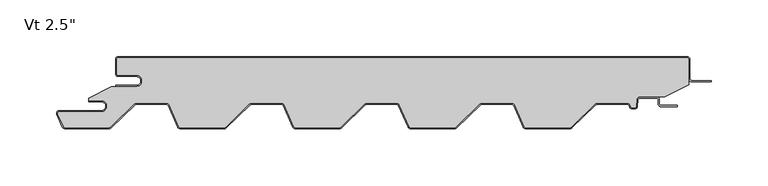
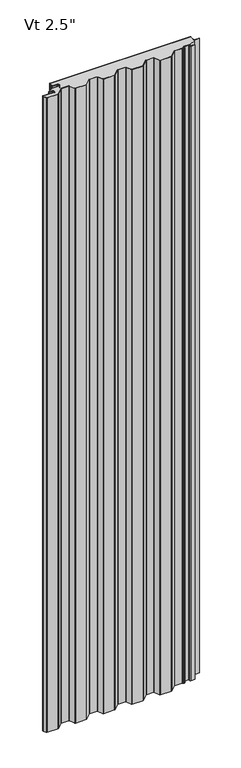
"""IFC4 building model written with IfcOpenShell, lengths in millimetres: plate geometry."""

from ifc_helpers import new_model, si_unit, point, frame_2d, origin, origin_with_axes, place, context, project, spatial, polyline, circle_curve, trimmed, segment, composite_curve, outline, extrude, source, transform, mapped, element, save


def plate_8d839006(model_context):
    return source(origin(), model_context, "Body", "SweptSolid", [
        extrude(outline(composite_curve([segment(trimmed(circle_curve(frame_2d((-234.94375, -21.4324412)), 4.96875), [point((-234.94375, -26.4011912))], [point((-234.94375, -16.4636912))], True, "CARTESIAN"), True, "CONTINUOUS"), segment(polyline([(-234.94375, -16.4636912), (-250.81875, -16.4636912)]), True, "CONTINUOUS"), segment(trimmed(circle_curve(frame_2d((-250.81875, -15.0824412)), 1.38125), [point((-250.81875, -16.4636912))], [point((-252.2, -15.0824412))], False, "CARTESIAN"), True, "CONTINUOUS"), segment(polyline([(-252.2, -15.0824412), (-252.2, -2.3824412)]), True, "CONTINUOUS"), segment(trimmed(circle_curve(frame_2d((-250.81875, -2.3824412)), 1.38125), [point((-252.2, -2.3824412))], [point((-250.81875, -1.0011912))], False, "CARTESIAN"), True, "CONTINUOUS"), segment(polyline([(-250.81875, -1.0011912), (250.83125, -1.0011912)]), True, "CONTINUOUS"), segment(trimmed(circle_curve(frame_2d((250.83125, -2.3824412)), 1.38125), [point((250.83125, -1.0011912))], [point((252.2125, -2.3824412))], False, "CARTESIAN"), True, "CONTINUOUS"), segment(polyline([(252.2125, -2.3824412), (252.2125, -24.8719682), (231.3955434, -35.5136912), (208.9683457, -35.5136912)]), True, "CONTINUOUS"), segment(trimmed(circle_curve(frame_2d((208.9683457, -38.1011912)), 2.5875), [point((208.9683457, -35.5136912))], [point((206.3843918, -37.9657719))], True, "CARTESIAN"), True, "CONTINUOUS"), segment(polyline([(206.3843918, -37.9657719), (206.0823155, -43.7297302)]), True, "CONTINUOUS"), segment(trimmed(circle_curve(frame_2d((204.7029585, -43.6574412)), 1.38125), [point((206.0823155, -43.7297302))], [point((204.7029585, -45.0386912))], False, "CARTESIAN"), True, "CONTINUOUS"), segment(polyline([(204.7029585, -45.0386912), (202.3754519, -45.0386912)]), True, "CONTINUOUS"), segment(trimmed(circle_curve(frame_2d((202.3754519, -43.6574412)), 1.38125), [point((202.3754519, -45.0386912))], [point((201.1124516, -44.2166208))], False, "CARTESIAN"), True, "CONTINUOUS"), segment(polyline([(201.1124516, -44.2166208), (200.3640306, -42.5261871)]), True, "CONTINUOUS"), segment(trimmed(circle_curve(frame_2d((197.9980481, -43.5737)), 2.5875), [point((200.3640306, -42.5261871))], [point((197.9980481, -40.9862))], True, "CARTESIAN"), True, "CONTINUOUS"), segment(polyline([(197.9980481, -40.9862), (171.4742003, -40.9862)]), True, "CONTINUOUS"), segment(trimmed(circle_curve(frame_2d((171.4742003, -43.5737)), 2.5875), [point((171.4742003, -40.9862))], [point((169.6745496, -41.7145567))], True, "CARTESIAN"), True, "CONTINUOUS"), segment(polyline([(169.6745496, -41.7145567), (148.6036462, -62.1111912)]), True, "CONTINUOUS"), segment(trimmed(circle_curve(frame_2d((147.6429631, -61.11875)), 1.38125), [point((148.6036462, -62.1111912))], [point((147.6429631, -62.5))], False, "CARTESIAN"), True, "CONTINUOUS"), segment(polyline([(147.6429631, -62.5), (108.5062557, -62.5)]), True, "CONTINUOUS"), segment(trimmed(circle_curve(frame_2d((108.5062557, -61.11875)), 1.38125), [point((108.5062557, -62.5))], [point((107.2432554, -61.6779296))], False, "CARTESIAN"), True, "CONTINUOUS"), segment(polyline([(107.2432554, -61.6779296), (98.7640306, -42.5261871)]), True, "CONTINUOUS"), segment(trimmed(circle_curve(frame_2d((96.3980481, -43.5737)), 2.5875), [point((98.7640306, -42.5261871))], [point((96.3980481, -40.9862))], True, "CARTESIAN"), True, "CONTINUOUS"), segment(polyline([(96.3980481, -40.9862), (69.8742003, -40.9862)]), True, "CONTINUOUS"), segment(trimmed(circle_curve(frame_2d((69.8742003, -43.5737)), 2.5875), [point((69.8742003, -40.9862))], [point((68.0745496, -41.7145567))], True, "CARTESIAN"), True, "CONTINUOUS"), segment(polyline([(68.0745496, -41.7145567), (47.0036462, -62.1111912)]), True, "CONTINUOUS"), segment(trimmed(circle_curve(frame_2d((46.0429631, -61.11875)), 1.38125), [point((47.0036462, -62.1111912))], [point((46.0429631, -62.5))], False, "CARTESIAN"), True, "CONTINUOUS"), segment(polyline([(46.0429631, -62.5), (6.9062557, -62.5)]), True, "CONTINUOUS"), segment(trimmed(circle_curve(frame_2d((6.9062557, -61.11875)), 1.38125), [point((6.9062557, -62.5))], [point((5.6432554, -61.6779296))], False, "CARTESIAN"), True, "CONTINUOUS"), segment(polyline([(5.6432554, -61.6779296), (-2.8359694, -42.5261871)]), True, "CONTINUOUS"), segment(trimmed(circle_curve(frame_2d((-5.2019519, -43.5737)), 2.5875), [point((-2.8359694, -42.5261871))], [point((-5.2019519, -40.9862))], True, "CARTESIAN"), True, "CONTINUOUS"), segment(polyline([(-5.2019519, -40.9862), (-31.7257997, -40.9862)]), True, "CONTINUOUS"), segment(trimmed(circle_curve(frame_2d((-31.7257997, -43.5737)), 2.5875), [point((-31.7257997, -40.9862))], [point((-33.5254504, -41.7145567))], True, "CARTESIAN"), True, "CONTINUOUS"), segment(polyline([(-33.5254504, -41.7145567), (-54.5963538, -62.1111912)]), True, "CONTINUOUS"), segment(trimmed(circle_curve(frame_2d((-55.5570369, -61.11875)), 1.38125), [point((-54.5963538, -62.1111912))], [point((-55.5570369, -62.5))], False, "CARTESIAN"), True, "CONTINUOUS"), segment(polyline([(-55.5570369, -62.5), (-94.6937443, -62.5)]), True, "CONTINUOUS"), segment(trimmed(circle_curve(frame_2d((-94.6937443, -61.11875)), 1.38125), [point((-94.6937443, -62.5))], [point((-95.9567446, -61.6779296))], False, "CARTESIAN"), True, "CONTINUOUS"), segment(polyline([(-95.9567446, -61.6779296), (-104.4359694, -42.5261871)]), True, "CONTINUOUS"), segment(trimmed(circle_curve(frame_2d((-106.8019519, -43.5737)), 2.5875), [point((-104.4359694, -42.5261871))], [point((-106.8019519, -40.9862))], True, "CARTESIAN"), True, "CONTINUOUS"), segment(polyline([(-106.8019519, -40.9862), (-133.3257997, -40.9862)]), True, "CONTINUOUS"), segment(trimmed(circle_curve(frame_2d((-133.3257997, -43.5737)), 2.5875), [point((-133.3257997, -40.9862))], [point((-135.1254504, -41.7145567))], True, "CARTESIAN"), True, "CONTINUOUS"), segment(polyline([(-135.1254504, -41.7145567), (-156.1963538, -62.1111912)]), True, "CONTINUOUS"), segment(trimmed(circle_curve(frame_2d((-157.1570369, -61.11875)), 1.38125), [point((-156.1963538, -62.1111912))], [point((-157.1570369, -62.5))], False, "CARTESIAN"), True, "CONTINUOUS"), segment(polyline([(-157.1570369, -62.5), (-196.2937443, -62.5)]), True, "CONTINUOUS"), segment(trimmed(circle_curve(frame_2d((-196.2937443, -61.11875)), 1.38125), [point((-196.2937443, -62.5))], [point((-197.5567446, -61.6779296))], False, "CARTESIAN"), True, "CONTINUOUS"), segment(polyline([(-197.5567446, -61.6779296), (-206.0359694, -42.5261871)]), True, "CONTINUOUS"), segment(trimmed(circle_curve(frame_2d((-208.4019519, -43.5737)), 2.5875), [point((-206.0359694, -42.5261871))], [point((-208.4019519, -40.9862))], True, "CARTESIAN"), True, "CONTINUOUS"), segment(polyline([(-208.4019519, -40.9862), (-234.9257997, -40.9862)]), True, "CONTINUOUS"), segment(trimmed(circle_curve(frame_2d((-234.9257997, -43.5737)), 2.5875), [point((-234.9257997, -40.9862))], [point((-236.7254504, -41.7145567))], True, "CARTESIAN"), True, "CONTINUOUS"), segment(polyline([(-236.7254504, -41.7145567), (-257.5876931, -61.9092077)]), True, "CONTINUOUS"), segment(trimmed(circle_curve(frame_2d((-259.0474446, -60.4012)), 2.0988), [point((-257.5876931, -61.9092077))], [point((-259.0474446, -62.5))], False, "CARTESIAN"), True, "CONTINUOUS"), segment(polyline([(-259.0474446, -62.5), (-297.8937443, -62.5)]), True, "CONTINUOUS"), segment(trimmed(circle_curve(frame_2d((-297.8937443, -61.11875)), 1.38125), [point((-297.8937443, -62.5))], [point((-299.1567446, -61.6779296))], False, "CARTESIAN"), True, "CONTINUOUS"), segment(polyline([(-299.1567446, -61.6779296), (-304.0761552, -50.5666208)]), True, "CONTINUOUS"), segment(trimmed(circle_curve(frame_2d((-302.8131549, -50.0074412)), 1.38125), [point((-304.0761552, -50.5666208))], [point((-302.8131549, -48.6261912))], False, "CARTESIAN"), True, "CONTINUOUS"), segment(polyline([(-302.8131549, -48.6261912), (-265.9, -48.6261912)]), True, "CONTINUOUS"), segment(trimmed(circle_curve(frame_2d((-265.9, -43.6574412)), 4.96875), [point((-265.9, -48.6261912))], [point((-265.9, -38.6886912))], True, "CARTESIAN"), True, "CONTINUOUS"), segment(polyline([(-265.9, -38.6886912), (-277.0125, -38.6886912), (-277.0125, -36.533822), (-257.1914112, -26.4011912), (-234.94375, -26.4011912)]), True, "CONTINUOUS")], self_intersect=False)), origin_with_axes(), (0.0, 0.0, 1.0), 2400.0),
        extrude(outline(composite_curve([segment(polyline([(-253.2, -25.4), (-234.94375, -25.4)]), True, "CONTINUOUS"), segment(trimmed(circle_curve(frame_2d((-234.94375, -21.43125)), 3.96875), [point((-234.94375, -25.4))], [point((-234.94375, -17.4625))], True, "CARTESIAN"), True, "CONTINUOUS"), segment(polyline([(-234.94375, -17.4625), (-250.81875, -17.4625)]), True, "CONTINUOUS"), segment(trimmed(circle_curve(frame_2d((-250.81875, -15.08125)), 2.38125), [point((-250.81875, -17.4625))], [point((-253.2, -15.08125))], False, "CARTESIAN"), True, "CONTINUOUS"), segment(polyline([(-253.2, -15.08125), (-253.2, -2.38125)]), True, "CONTINUOUS"), segment(trimmed(circle_curve(frame_2d((-250.81875, -2.38125)), 2.38125), [point((-253.2, -2.38125))], [point((-250.81875, 0.0))], False, "CARTESIAN"), True, "CONTINUOUS"), segment(polyline([(-250.81875, 0.0), (250.83125, 0.0)]), True, "CONTINUOUS"), segment(trimmed(circle_curve(frame_2d((250.83125, -2.38125)), 2.38125), [point((250.83125, 0.0))], [point((253.2125, -2.38125))], False, "CARTESIAN"), True, "CONTINUOUS"), segment(polyline([(253.2125, -2.38125), (253.2125, -19.446875)]), True, "CONTINUOUS"), segment(trimmed(circle_curve(frame_2d((254.8, -19.446875)), 1.5875), [point((253.2125, -19.446875))], [point((254.8, -21.034375))], True, "CARTESIAN"), True, "CONTINUOUS"), segment(polyline([(254.8, -21.034375), (272.2625, -21.034375), (272.2625, -22.034375), (254.8, -22.034375)]), True, "CONTINUOUS"), segment(trimmed(circle_curve(frame_2d((254.8, -19.446875)), 2.5875), [point((254.8, -22.034375))], [point((252.2125, -19.446875))], False, "CARTESIAN"), True, "CONTINUOUS"), segment(polyline([(252.2125, -19.446875), (252.2125, -2.38125)]), True, "CONTINUOUS"), segment(trimmed(circle_curve(frame_2d((250.83125, -2.38125)), 1.38125), [point((252.2125, -2.38125))], [point((250.83125, -1.0))], True, "CARTESIAN"), True, "CONTINUOUS"), segment(polyline([(250.83125, -1.0), (-250.81875, -1.0)]), True, "CONTINUOUS"), segment(trimmed(circle_curve(frame_2d((-250.81875, -2.38125)), 1.38125), [point((-250.81875, -1.0))], [point((-252.2, -2.38125))], True, "CARTESIAN"), True, "CONTINUOUS"), segment(polyline([(-252.2, -2.38125), (-252.2, -15.08125)]), True, "CONTINUOUS"), segment(trimmed(circle_curve(frame_2d((-250.81875, -15.08125)), 1.38125), [point((-252.2, -15.08125))], [point((-250.81875, -16.4625))], True, "CARTESIAN"), True, "CONTINUOUS"), segment(polyline([(-250.81875, -16.4625), (-234.94375, -16.4625)]), True, "CONTINUOUS"), segment(trimmed(circle_curve(frame_2d((-234.94375, -21.43125)), 4.96875), [point((-234.94375, -16.4625))], [point((-234.94375, -26.4))], False, "CARTESIAN"), True, "CONTINUOUS"), segment(polyline([(-234.94375, -26.4), (-253.2, -26.4), (-253.2, -25.4)]), True, "CONTINUOUS")], self_intersect=False)), origin_with_axes(), (0.0, 0.0, 1.0), 2400.0),
        extrude(outline(composite_curve([segment(trimmed(circle_curve(frame_2d((-265.9, -43.6574412)), 3.96875), [point((-265.9, -47.6261912))], [point((-265.9, -39.6886912))], True, "CARTESIAN"), True, "CONTINUOUS"), segment(polyline([(-265.9, -39.6886912), (-277.0125, -39.6886912), (-277.0125, -38.6886912), (-265.9, -38.6886912)]), True, "CONTINUOUS"), segment(trimmed(circle_curve(frame_2d((-265.9, -43.6574412)), 4.96875), [point((-265.9, -38.6886912))], [point((-265.9, -48.6261912))], False, "CARTESIAN"), True, "CONTINUOUS"), segment(polyline([(-265.9, -48.6261912), (-302.8131549, -48.6261912)]), True, "CONTINUOUS"), segment(trimmed(circle_curve(frame_2d((-302.8131549, -50.0074412)), 1.38125), [point((-302.8131549, -48.6261912))], [point((-304.0761552, -50.5666208))], True, "CARTESIAN"), True, "CONTINUOUS"), segment(polyline([(-304.0761552, -50.5666208), (-299.1567446, -61.6779296)]), True, "CONTINUOUS"), segment(trimmed(circle_curve(frame_2d((-297.8937443, -61.11875)), 1.38125), [point((-299.1567446, -61.6779296))], [point((-297.8937443, -62.5))], True, "CARTESIAN"), True, "CONTINUOUS"), segment(polyline([(-297.8937443, -62.5), (-259.0474446, -62.5)]), True, "CONTINUOUS"), segment(trimmed(circle_curve(frame_2d((-259.0474446, -60.4012)), 2.0988), [point((-259.0474446, -62.5))], [point((-257.5876931, -61.9092077))], True, "CARTESIAN"), True, "CONTINUOUS"), segment(polyline([(-257.5876931, -61.9092077), (-236.7254504, -41.7145567)]), True, "CONTINUOUS"), segment(trimmed(circle_curve(frame_2d((-234.9257997, -43.5737)), 2.5875), [point((-236.7254504, -41.7145567))], [point((-234.9257997, -40.9862))], False, "CARTESIAN"), True, "CONTINUOUS"), segment(polyline([(-234.9257997, -40.9862), (-208.4019519, -40.9862)]), True, "CONTINUOUS"), segment(trimmed(circle_curve(frame_2d((-208.4019519, -43.5737)), 2.5875), [point((-208.4019519, -40.9862))], [point((-206.0359694, -42.5261871))], False, "CARTESIAN"), True, "CONTINUOUS"), segment(polyline([(-206.0359694, -42.5261871), (-197.5567446, -61.6779296)]), True, "CONTINUOUS"), segment(trimmed(circle_curve(frame_2d((-196.2937443, -61.11875)), 1.38125), [point((-197.5567446, -61.6779296))], [point((-196.2937443, -62.5))], True, "CARTESIAN"), True, "CONTINUOUS"), segment(polyline([(-196.2937443, -62.5), (-157.1570369, -62.5)]), True, "CONTINUOUS"), segment(trimmed(circle_curve(frame_2d((-157.1570369, -61.11875)), 1.38125), [point((-157.1570369, -62.5))], [point((-156.1963538, -62.1111912))], True, "CARTESIAN"), True, "CONTINUOUS"), segment(polyline([(-156.1963538, -62.1111912), (-135.1254504, -41.7145567)]), True, "CONTINUOUS"), segment(trimmed(circle_curve(frame_2d((-133.3257997, -43.5737)), 2.5875), [point((-135.1254504, -41.7145567))], [point((-133.3257997, -40.9862))], False, "CARTESIAN"), True, "CONTINUOUS"), segment(polyline([(-133.3257997, -40.9862), (-106.8019519, -40.9862)]), True, "CONTINUOUS"), segment(trimmed(circle_curve(frame_2d((-106.8019519, -43.5737)), 2.5875), [point((-106.8019519, -40.9862))], [point((-104.4359694, -42.5261871))], False, "CARTESIAN"), True, "CONTINUOUS"), segment(polyline([(-104.4359694, -42.5261871), (-95.9567446, -61.6779296)]), True, "CONTINUOUS"), segment(trimmed(circle_curve(frame_2d((-94.6937443, -61.11875)), 1.38125), [point((-95.9567446, -61.6779296))], [point((-94.6937443, -62.5))], True, "CARTESIAN"), True, "CONTINUOUS"), segment(polyline([(-94.6937443, -62.5), (-55.5570369, -62.5)]), True, "CONTINUOUS"), segment(trimmed(circle_curve(frame_2d((-55.5570369, -61.11875)), 1.38125), [point((-55.5570369, -62.5))], [point((-54.5963538, -62.1111912))], True, "CARTESIAN"), True, "CONTINUOUS"), segment(polyline([(-54.5963538, -62.1111912), (-33.5254504, -41.7145567)]), True, "CONTINUOUS"), segment(trimmed(circle_curve(frame_2d((-31.7257997, -43.5737)), 2.5875), [point((-33.5254504, -41.7145567))], [point((-31.7257997, -40.9862))], False, "CARTESIAN"), True, "CONTINUOUS"), segment(polyline([(-31.7257997, -40.9862), (-5.2019519, -40.9862)]), True, "CONTINUOUS"), segment(trimmed(circle_curve(frame_2d((-5.2019519, -43.5737)), 2.5875), [point((-5.2019519, -40.9862))], [point((-2.8359694, -42.5261871))], False, "CARTESIAN"), True, "CONTINUOUS"), segment(polyline([(-2.8359694, -42.5261871), (5.6432554, -61.6779296)]), True, "CONTINUOUS"), segment(trimmed(circle_curve(frame_2d((6.9062557, -61.11875)), 1.38125), [point((5.6432554, -61.6779296))], [point((6.9062557, -62.5))], True, "CARTESIAN"), True, "CONTINUOUS"), segment(polyline([(6.9062557, -62.5), (46.0429631, -62.5)]), True, "CONTINUOUS"), segment(trimmed(circle_curve(frame_2d((46.0429631, -61.11875)), 1.38125), [point((46.0429631, -62.5))], [point((47.0036462, -62.1111912))], True, "CARTESIAN"), True, "CONTINUOUS"), segment(polyline([(47.0036462, -62.1111912), (68.0745496, -41.7145567)]), True, "CONTINUOUS"), segment(trimmed(circle_curve(frame_2d((69.8742003, -43.5737)), 2.5875), [point((68.0745496, -41.7145567))], [point((69.8742003, -40.9862))], False, "CARTESIAN"), True, "CONTINUOUS"), segment(polyline([(69.8742003, -40.9862), (96.3980481, -40.9862)]), True, "CONTINUOUS"), segment(trimmed(circle_curve(frame_2d((96.3980481, -43.5737)), 2.5875), [point((96.3980481, -40.9862))], [point((98.7640306, -42.5261871))], False, "CARTESIAN"), True, "CONTINUOUS"), segment(polyline([(98.7640306, -42.5261871), (107.2432554, -61.6779296)]), True, "CONTINUOUS"), segment(trimmed(circle_curve(frame_2d((108.5062557, -61.11875)), 1.38125), [point((107.2432554, -61.6779296))], [point((108.5062557, -62.5))], True, "CARTESIAN"), True, "CONTINUOUS"), segment(polyline([(108.5062557, -62.5), (147.6429631, -62.5)]), True, "CONTINUOUS"), segment(trimmed(circle_curve(frame_2d((147.6429631, -61.11875)), 1.38125), [point((147.6429631, -62.5))], [point((148.6036462, -62.1111912))], True, "CARTESIAN"), True, "CONTINUOUS"), segment(polyline([(148.6036462, -62.1111912), (169.6745496, -41.7145567)]), True, "CONTINUOUS"), segment(trimmed(circle_curve(frame_2d((171.4742003, -43.5737)), 2.5875), [point((169.6745496, -41.7145567))], [point((171.4742003, -40.9862))], False, "CARTESIAN"), True, "CONTINUOUS"), segment(polyline([(171.4742003, -40.9862), (197.9980481, -40.9862)]), True, "CONTINUOUS"), segment(trimmed(circle_curve(frame_2d((197.9980481, -43.5737)), 2.5875), [point((197.9980481, -40.9862))], [point((200.3640306, -42.5261871))], False, "CARTESIAN"), True, "CONTINUOUS"), segment(polyline([(200.3640306, -42.5261871), (201.1124516, -44.2166208)]), True, "CONTINUOUS"), segment(trimmed(circle_curve(frame_2d((202.3754519, -43.6574412)), 1.38125), [point((201.1124516, -44.2166208))], [point((202.3754519, -45.0386912))], True, "CARTESIAN"), True, "CONTINUOUS"), segment(polyline([(202.3754519, -45.0386912), (204.7029585, -45.0386912)]), True, "CONTINUOUS"), segment(trimmed(circle_curve(frame_2d((204.7029585, -43.6574412)), 1.38125), [point((204.7029585, -45.0386912))], [point((206.0823155, -43.7297302))], True, "CARTESIAN"), True, "CONTINUOUS"), segment(polyline([(206.0823155, -43.7297302), (206.3843918, -37.9657719)]), True, "CONTINUOUS"), segment(trimmed(circle_curve(frame_2d((208.9683457, -38.1011912)), 2.5875), [point((206.3843918, -37.9657719))], [point((208.9683457, -35.5136912))], False, "CARTESIAN"), True, "CONTINUOUS"), segment(polyline([(208.9683457, -35.5136912), (223.84375, -35.5136912)]), True, "CONTINUOUS"), segment(trimmed(circle_curve(frame_2d((223.84375, -38.1011912)), 2.5875), [point((223.84375, -35.5136912))], [point((226.43125, -38.1011912))], False, "CARTESIAN"), True, "CONTINUOUS"), segment(polyline([(226.43125, -38.1011912), (226.43125, -41.6730662)]), True, "CONTINUOUS"), segment(trimmed(circle_curve(frame_2d((227.8125, -41.6730662)), 1.38125), [point((226.43125, -41.6730662))], [point((227.8125, -43.0543162))], True, "CARTESIAN"), True, "CONTINUOUS"), segment(polyline([(227.8125, -43.0543162), (242.1, -43.0543162), (242.1, -44.0543162), (227.8125, -44.0543162)]), True, "CONTINUOUS"), segment(trimmed(circle_curve(frame_2d((227.8125, -41.6730662)), 2.38125), [point((227.8125, -44.0543162))], [point((225.43125, -41.6730662))], False, "CARTESIAN"), True, "CONTINUOUS"), segment(polyline([(225.43125, -41.6730662), (225.43125, -38.1011912)]), True, "CONTINUOUS"), segment(trimmed(circle_curve(frame_2d((223.84375, -38.1011912)), 1.5875), [point((225.43125, -38.1011912))], [point((223.84375, -36.5136912))], True, "CARTESIAN"), True, "CONTINUOUS"), segment(polyline([(223.84375, -36.5136912), (208.9683457, -36.5136912)]), True, "CONTINUOUS"), segment(trimmed(circle_curve(frame_2d((208.9683457, -38.1011912)), 1.5875), [point((208.9683457, -36.5136912))], [point((207.3830213, -38.0181078))], True, "CARTESIAN"), True, "CONTINUOUS"), segment(polyline([(207.3830213, -38.0181078), (207.0809451, -43.7820662)]), True, "CONTINUOUS"), segment(trimmed(circle_curve(frame_2d((204.7029585, -43.6574412)), 2.38125), [point((207.0809451, -43.7820662))], [point((204.7029585, -46.0386912))], False, "CARTESIAN"), True, "CONTINUOUS"), segment(polyline([(204.7029585, -46.0386912), (202.3754519, -46.0386912)]), True, "CONTINUOUS"), segment(trimmed(circle_curve(frame_2d((202.3754519, -43.6574412)), 2.38125), [point((202.3754519, -46.0386912))], [point((200.1980623, -44.6214567))], False, "CARTESIAN"), True, "CONTINUOUS"), segment(polyline([(200.1980623, -44.6214567), (199.4496412, -42.931023)]), True, "CONTINUOUS"), segment(trimmed(circle_curve(frame_2d((197.9980481, -43.5737)), 1.5875), [point((199.4496412, -42.931023))], [point((197.9980481, -41.9862))], True, "CARTESIAN"), True, "CONTINUOUS"), segment(polyline([(197.9980481, -41.9862), (171.4742003, -41.9862)]), True, "CONTINUOUS"), segment(trimmed(circle_curve(frame_2d((171.4742003, -43.5737)), 1.5875), [point((171.4742003, -41.9862))], [point((170.3700668, -42.4330662))], True, "CARTESIAN"), True, "CONTINUOUS"), segment(polyline([(170.3700668, -42.4330662), (149.2991634, -62.8297007)]), True, "CONTINUOUS"), segment(trimmed(circle_curve(frame_2d((147.6429631, -61.11875)), 2.38125), [point((149.2991634, -62.8297007))], [point((147.6429631, -63.5))], False, "CARTESIAN"), True, "CONTINUOUS"), segment(polyline([(147.6429631, -63.5), (108.5062557, -63.5)]), True, "CONTINUOUS"), segment(trimmed(circle_curve(frame_2d((108.5062557, -61.11875)), 2.38125), [point((108.5062557, -63.5))], [point((106.3288661, -62.0827655))], False, "CARTESIAN"), True, "CONTINUOUS"), segment(polyline([(106.3288661, -62.0827655), (97.8496412, -42.931023)]), True, "CONTINUOUS"), segment(trimmed(circle_curve(frame_2d((96.3980481, -43.5737)), 1.5875), [point((97.8496412, -42.931023))], [point((96.3980481, -41.9862))], True, "CARTESIAN"), True, "CONTINUOUS"), segment(polyline([(96.3980481, -41.9862), (69.8742003, -41.9862)]), True, "CONTINUOUS"), segment(trimmed(circle_curve(frame_2d((69.8742003, -43.5737)), 1.5875), [point((69.8742003, -41.9862))], [point((68.7700668, -42.4330662))], True, "CARTESIAN"), True, "CONTINUOUS"), segment(polyline([(68.7700668, -42.4330662), (47.6991634, -62.8297007)]), True, "CONTINUOUS"), segment(trimmed(circle_curve(frame_2d((46.0429631, -61.11875)), 2.38125), [point((47.6991634, -62.8297007))], [point((46.0429631, -63.5))], False, "CARTESIAN"), True, "CONTINUOUS"), segment(polyline([(46.0429631, -63.5), (6.9062557, -63.5)]), True, "CONTINUOUS"), segment(trimmed(circle_curve(frame_2d((6.9062557, -61.11875)), 2.38125), [point((6.9062557, -63.5))], [point((4.7288661, -62.0827655))], False, "CARTESIAN"), True, "CONTINUOUS"), segment(polyline([(4.7288661, -62.0827655), (-3.7503588, -42.931023)]), True, "CONTINUOUS"), segment(trimmed(circle_curve(frame_2d((-5.2019519, -43.5737)), 1.5875), [point((-3.7503588, -42.931023))], [point((-5.2019519, -41.9862))], True, "CARTESIAN"), True, "CONTINUOUS"), segment(polyline([(-5.2019519, -41.9862), (-31.7257997, -41.9862)]), True, "CONTINUOUS"), segment(trimmed(circle_curve(frame_2d((-31.7257997, -43.5737)), 1.5875), [point((-31.7257997, -41.9862))], [point((-32.8299332, -42.4330662))], True, "CARTESIAN"), True, "CONTINUOUS"), segment(polyline([(-32.8299332, -42.4330662), (-53.9008366, -62.8297007)]), True, "CONTINUOUS"), segment(trimmed(circle_curve(frame_2d((-55.5570369, -61.11875)), 2.38125), [point((-53.9008366, -62.8297007))], [point((-55.5570369, -63.5))], False, "CARTESIAN"), True, "CONTINUOUS"), segment(polyline([(-55.5570369, -63.5), (-94.6937443, -63.5)]), True, "CONTINUOUS"), segment(trimmed(circle_curve(frame_2d((-94.6937443, -61.11875)), 2.38125), [point((-94.6937443, -63.5))], [point((-96.8711339, -62.0827655))], False, "CARTESIAN"), True, "CONTINUOUS"), segment(polyline([(-96.8711339, -62.0827655), (-105.3503588, -42.931023)]), True, "CONTINUOUS"), segment(trimmed(circle_curve(frame_2d((-106.8019519, -43.5737)), 1.5875), [point((-105.3503588, -42.931023))], [point((-106.8019519, -41.9862))], True, "CARTESIAN"), True, "CONTINUOUS"), segment(polyline([(-106.8019519, -41.9862), (-133.3257997, -41.9862)]), True, "CONTINUOUS"), segment(trimmed(circle_curve(frame_2d((-133.3257997, -43.5737)), 1.5875), [point((-133.3257997, -41.9862))], [point((-134.4299332, -42.4330662))], True, "CARTESIAN"), True, "CONTINUOUS"), segment(polyline([(-134.4299332, -42.4330662), (-155.5008366, -62.8297007)]), True, "CONTINUOUS"), segment(trimmed(circle_curve(frame_2d((-157.1570369, -61.11875)), 2.38125), [point((-155.5008366, -62.8297007))], [point((-157.1570369, -63.5))], False, "CARTESIAN"), True, "CONTINUOUS"), segment(polyline([(-157.1570369, -63.5), (-196.2937443, -63.5)]), True, "CONTINUOUS"), segment(trimmed(circle_curve(frame_2d((-196.2937443, -61.11875)), 2.38125), [point((-196.2937443, -63.5))], [point((-198.4711339, -62.0827655))], False, "CARTESIAN"), True, "CONTINUOUS"), segment(polyline([(-198.4711339, -62.0827655), (-206.9503588, -42.931023)]), True, "CONTINUOUS"), segment(trimmed(circle_curve(frame_2d((-208.4019519, -43.5737)), 1.5875), [point((-206.9503588, -42.931023))], [point((-208.4019519, -41.9862))], True, "CARTESIAN"), True, "CONTINUOUS"), segment(polyline([(-208.4019519, -41.9862), (-234.9257997, -41.9862)]), True, "CONTINUOUS"), segment(trimmed(circle_curve(frame_2d((-234.9257997, -43.5737)), 1.5875), [point((-234.9257997, -41.9862))], [point((-236.0299332, -42.4330662))], True, "CARTESIAN"), True, "CONTINUOUS"), segment(polyline([(-236.0299332, -42.4330662), (-256.8921759, -62.6277172)]), True, "CONTINUOUS"), segment(trimmed(circle_curve(frame_2d((-259.0474446, -60.4012)), 3.0988), [point((-256.8921759, -62.6277172))], [point((-259.0474446, -63.5))], False, "CARTESIAN"), True, "CONTINUOUS"), segment(polyline([(-259.0474446, -63.5), (-297.8937443, -63.5)]), True, "CONTINUOUS"), segment(trimmed(circle_curve(frame_2d((-297.8937443, -61.11875)), 2.38125), [point((-297.8937443, -63.5))], [point((-300.0711339, -62.0827655))], False, "CARTESIAN"), True, "CONTINUOUS"), segment(polyline([(-300.0711339, -62.0827655), (-304.9905446, -50.9714567)]), True, "CONTINUOUS"), segment(trimmed(circle_curve(frame_2d((-302.8131549, -50.0074412)), 2.38125), [point((-304.9905446, -50.9714567))], [point((-302.8131549, -47.6261912))], False, "CARTESIAN"), True, "CONTINUOUS"), segment(polyline([(-302.8131549, -47.6261912), (-265.9, -47.6261912)]), True, "CONTINUOUS")], self_intersect=False)), origin_with_axes(), (0.0, 0.0, 1.0), 2400.0),
    ])


if __name__ == "__main__":
    model = new_model("IFC4")
    model_context = context("Model", 3, world=origin())
    ifc_project = project(units=[si_unit("LENGTHUNIT", "METRE", prefix="MILLI")], contexts=[model_context])
    site = spatial("IfcSite", under=ifc_project)
    building = spatial("IfcBuilding", under=site)
    placement = place(None, origin())
    plate_shape = plate_8d839006(model_context)
    element("IfcPlate", 1, ObjectType="KIP-20-DWR-R19-CP-Vt-S : Vt 2.5\"", at=placement, inside=building, context=model_context, shape_type="MappedRepresentation", body=[
        mapped(plate_shape, transform((0.0, 0.0, 0.0), x_axis=(1.0, 0.0, 0.0), y_axis=(0.0, 1.0, 0.0), z_axis=(0.0, 0.0, 1.0))),
    ])
    save(model, "model.ifc")
